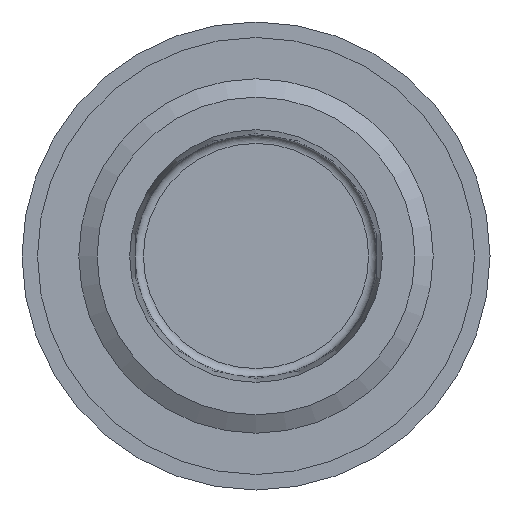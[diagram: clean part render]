
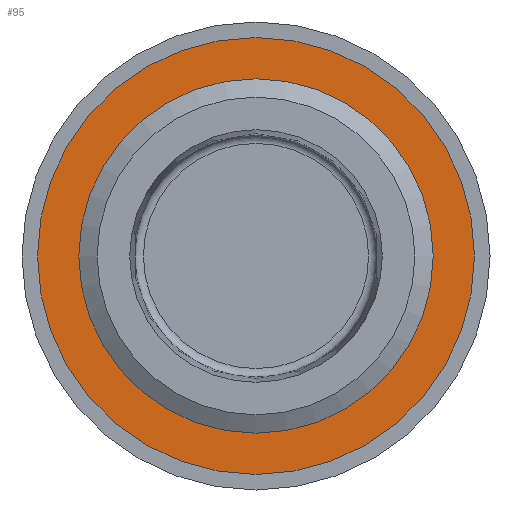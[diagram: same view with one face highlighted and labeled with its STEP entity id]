
A CAD part, front view. The second image highlights one B-rep face of the part: STEP entity #95.
In plain terms, the highlighted planar face has unit normal (0, -1, 0).
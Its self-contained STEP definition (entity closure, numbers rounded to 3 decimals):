
#95 = ADVANCED_FACE( '', ( #150, #151 ), #152, .F. );
#150 = FACE_BOUND( '', #208, .T. );
#151 = FACE_OUTER_BOUND( '', #209, .T. );
#152 = PLANE( '', #210 );
#208 = EDGE_LOOP( '', ( #334 ) );
#209 = EDGE_LOOP( '', ( #335 ) );
#210 = AXIS2_PLACEMENT_3D( '', #336, #337, #338 );
#334 = ORIENTED_EDGE( '', *, *, #374, .F. );
#335 = ORIENTED_EDGE( '', *, *, #375, .T. );
#336 = CARTESIAN_POINT( '', ( 10.271, 6.038, 0. ) );
#337 = DIRECTION( '', ( 0., 1., 0. ) );
#338 = DIRECTION( '', ( 0., 0., 1. ) );
#374 = EDGE_CURVE( '', #430, #430, #431, .T. );
#375 = EDGE_CURVE( '', #432, #432, #433, .T. );
#430 = VERTEX_POINT( '', #506 );
#431 = CIRCLE( '', #507, 8.331 );
#432 = VERTEX_POINT( '', #508 );
#433 = CIRCLE( '', #509, 10.271 );
#506 = CARTESIAN_POINT( '', ( 0., 6.038, -8.331 ) );
#507 = AXIS2_PLACEMENT_3D( '', #564, #565, #566 );
#508 = CARTESIAN_POINT( '', ( 0., 6.038, -10.271 ) );
#509 = AXIS2_PLACEMENT_3D( '', #567, #568, #569 );
#564 = CARTESIAN_POINT( '', ( 0., 6.038, 0. ) );
#565 = DIRECTION( '', ( 0., -1., 0. ) );
#566 = DIRECTION( '', ( 0., 0., -1. ) );
#567 = CARTESIAN_POINT( '', ( 0., 6.038, 0. ) );
#568 = DIRECTION( '', ( 0., -1., 0. ) );
#569 = DIRECTION( '', ( 0., 0., -1. ) );
